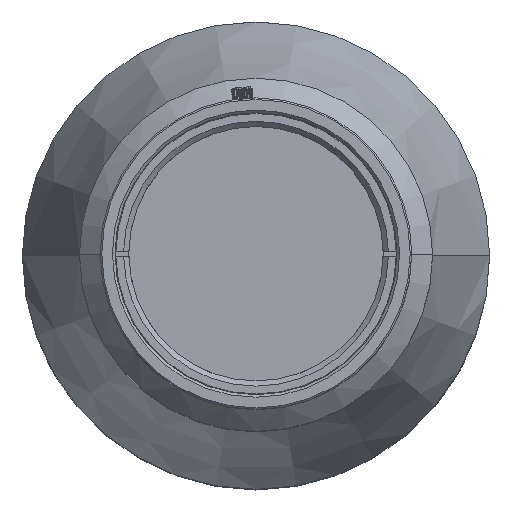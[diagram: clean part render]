
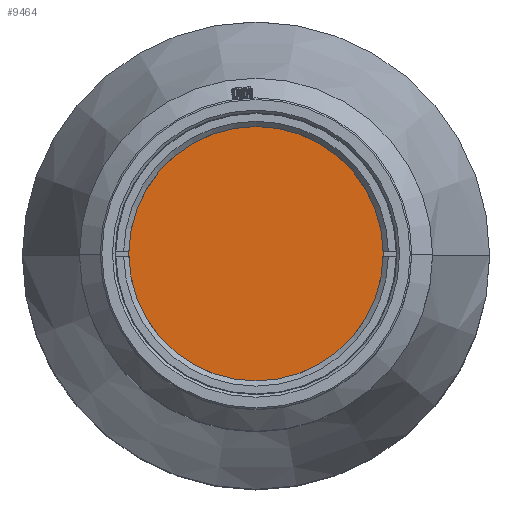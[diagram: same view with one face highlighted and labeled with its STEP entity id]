
A CAD part, top view. The second image highlights one B-rep face of the part: STEP entity #9464.
In plain terms, the highlighted planar face has unit normal (0, 0, 1).
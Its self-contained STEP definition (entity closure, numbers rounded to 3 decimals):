
#1294 = CARTESIAN_POINT ( 'NONE',  ( 0., 0., 59.414 ) ) ;
#1710 = DIRECTION ( 'NONE',  ( -1., 0., 0. ) ) ;
#2335 = EDGE_CURVE ( 'NONE', #3514, #10493, #19142, .T. ) ;
#2590 = AXIS2_PLACEMENT_3D ( 'NONE', #1294, #12810, #2980 ) ;
#2980 = DIRECTION ( 'NONE',  ( 1., 0., 0. ) ) ;
#3196 = FACE_OUTER_BOUND ( 'NONE', #12746, .T. ) ;
#3514 = VERTEX_POINT ( 'NONE', #19812 ) ;
#4054 = AXIS2_PLACEMENT_3D ( 'NONE', #14757, #4937, #16412 ) ;
#4937 = DIRECTION ( 'NONE',  ( 0., 0., 1. ) ) ;
#8267 = PLANE ( 'NONE',  #10968 ) ;
#9464 = ADVANCED_FACE ( 'NONE', ( #3196 ), #8267, .F. ) ;
#10493 = VERTEX_POINT ( 'NONE', #20237 ) ;
#10968 = AXIS2_PLACEMENT_3D ( 'NONE', #19710, #11575, #1710 ) ;
#11575 = DIRECTION ( 'NONE',  ( 0., 0., -1. ) ) ;
#11580 = CIRCLE ( 'NONE', #2590, 24.6 ) ;
#12746 = EDGE_LOOP ( 'NONE', ( #21153, #15815 ) ) ;
#12810 = DIRECTION ( 'NONE',  ( 0., 0., 1. ) ) ;
#14757 = CARTESIAN_POINT ( 'NONE',  ( 0., 0., 59.414 ) ) ;
#15815 = ORIENTED_EDGE ( 'NONE', *, *, #19522, .T. ) ;
#16412 = DIRECTION ( 'NONE',  ( 1., 0., 0. ) ) ;
#19142 = CIRCLE ( 'NONE', #4054, 24.6 ) ;
#19522 = EDGE_CURVE ( 'NONE', #10493, #3514, #11580, .T. ) ;
#19710 = CARTESIAN_POINT ( 'NONE',  ( 0., 24.6, 59.414 ) ) ;
#19812 = CARTESIAN_POINT ( 'NONE',  ( -24.6, 0., 59.414 ) ) ;
#20237 = CARTESIAN_POINT ( 'NONE',  ( 24.6, 0., 59.414 ) ) ;
#21153 = ORIENTED_EDGE ( 'NONE', *, *, #2335, .T. ) ;
